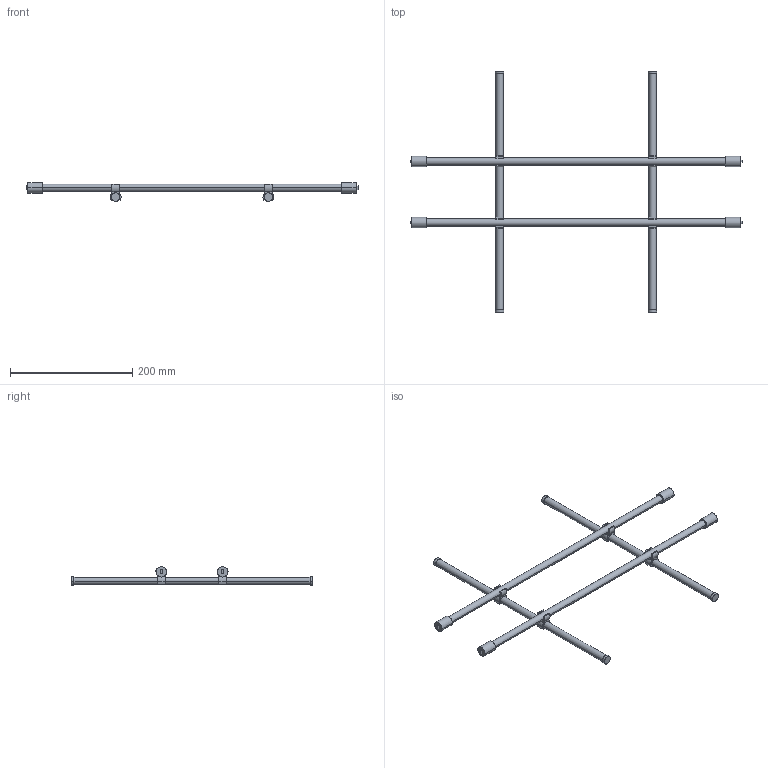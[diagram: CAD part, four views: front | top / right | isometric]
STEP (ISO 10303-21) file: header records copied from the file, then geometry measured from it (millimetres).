
FILE_DESCRIPTION (( 'STEP AP214' ), '1' );
FILE_NAME ('Magic-Classic_NL-430-KAB 600.step', '2010-09-16T12:49:16', ( 'grass' ), ( '' ), 'SwSTEP 2.0', 'SolidWorks 2010', '' );
FILE_SCHEMA (( 'AUTOMOTIVE_DESIGN' ));
Length unit declared in the file: millimetre
Products named in the file (1): Magic-Classic_NL-430-KAB 600
Bounding box: 543 x 395 x 30.45 mm (x, y, z)
Volume: 231368.3 mm3; surface area: 76805.4 mm2
Topology: 1 solids, 1 shells, 140 faces, 384 edges, 256 vertices
Faces by surface type: plane 76, cylinder 64
Entity records: 4546 total; most frequent: DIRECTION 826, CARTESIAN_POINT 781, ORIENTED_EDGE 768, EDGE_CURVE 384, AXIS2_PLACEMENT_3D 301, VERTEX_POINT 256, LINE 224, VECTOR 224
